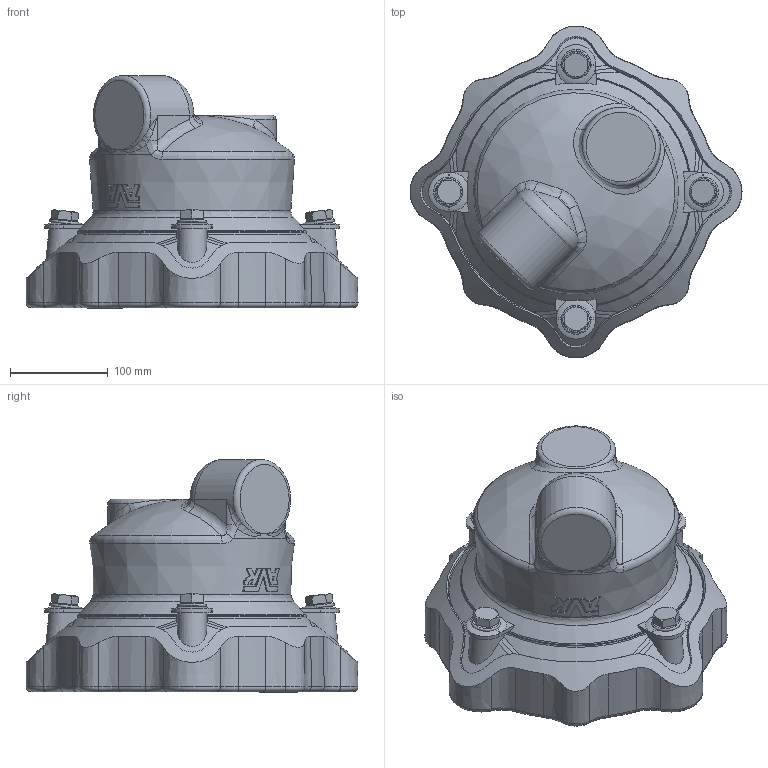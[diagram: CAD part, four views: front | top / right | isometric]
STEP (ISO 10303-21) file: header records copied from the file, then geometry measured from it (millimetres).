
FILE_DESCRIPTION (( 'STEP AP203' ), '1' );
FILE_NAME ('O_634_00_DN150_159-188mm_AA0_step.step', '2016-05-10T10:41:42', ( 'Windows User' ), ( 'AVK' ), 'SwSTEP 2.0', 'SolidWorks 2012', '' );
FILE_SCHEMA (( 'CONFIG_CONTROL_DESIGN' ));
Length unit declared in the file: millimetre
Products named in the file (1): O_634_00_DN150_159-188mm_AA0_step
Bounding box: 339.87 x 339.87 x 238.51 mm (x, y, z)
Volume: 4502433.1 mm3; surface area: 379346.7 mm2
Topology: 1 solids, 1 shells, 478 faces, 1257 edges, 795 vertices
Faces by surface type: plane 137, cylinder 109, bspline 88, cone 77, torus 61, sphere 6
Full cylindrical faces by diameter (mm): 20 x4, 188 x3, 194.438 x1
Entity records: 23194 total; most frequent: CARTESIAN_POINT 13284, ORIENTED_EDGE 2450, DIRECTION 1512, EDGE_CURVE 1225, VERTEX_POINT 785, AXIS2_PLACEMENT_3D 588, EDGE_LOOP 514, FACE_OUTER_BOUND 492
